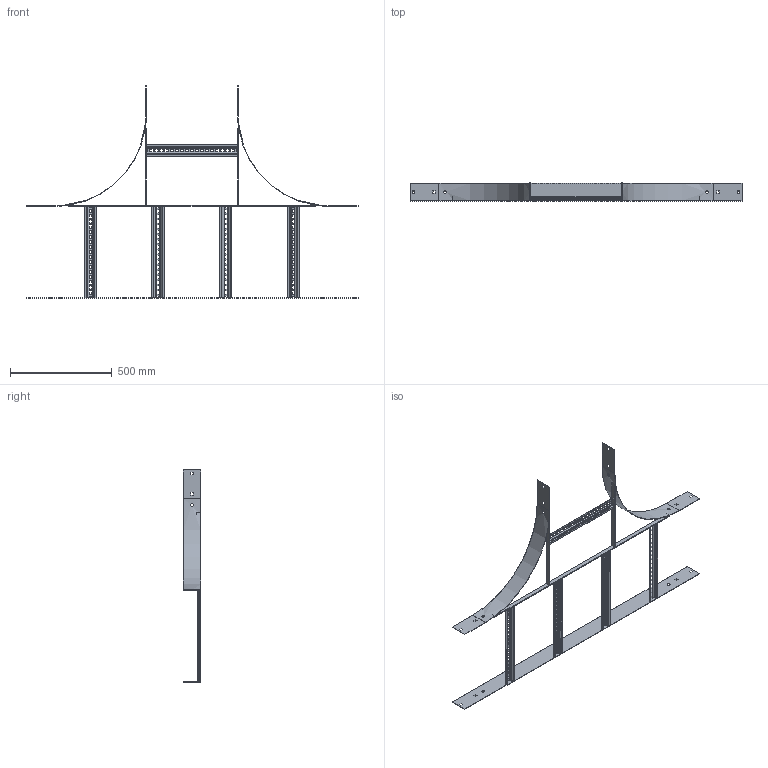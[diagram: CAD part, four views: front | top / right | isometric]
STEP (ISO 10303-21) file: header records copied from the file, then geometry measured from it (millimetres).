
FILE_DESCRIPTION (( 'STEP AP214' ), '1' );
FILE_NAME ('N2 T 4504.STEP', '2020-04-27T03:31:30', ( '' ), ( '' ), 'SwSTEP 2.0', 'SolidWorks 2020', '' );
FILE_SCHEMA (( 'AUTOMOTIVE_DESIGN' ));
Length unit declared in the file: millimetre
Products named in the file (6): Ladder Tee 20x5 Flat Bar_378; N2 RADIUS PLATE_N1-450 IR; Ladder Tee 20x5 Flat Bar_1216; N2 Back Plate_1650; N2 T 4504; Ladder Rung_Ladder Rung -  450mm
Assembly tree (11 placements, depth 2):
  N2 T 4504
    N2 Back Plate_1650
    Ladder Rung_Ladder Rung -  450mm  x5
    Ladder Tee 20x5 Flat Bar_1216
    N2 RADIUS PLATE_N1-450 IR  x2
    Ladder Tee 20x5 Flat Bar_378  x2
Bounding box: 1635 x 87 x 1044.5 mm (x, y, z)
Volume: 1061076.3 mm3; surface area: 1056819.5 mm2
Topology: 11 solids, 11 shells, 682 faces, 1804 edges, 1144 vertices
Faces by surface type: plane 626, cylinder 56
Entity records: 6310 total; most frequent: CARTESIAN_POINT 1340, ORIENTED_EDGE 976, DIRECTION 908, EDGE_CURVE 488, VECTOR 452, LINE 452, VERTEX_POINT 312, EDGE_LOOP 244
